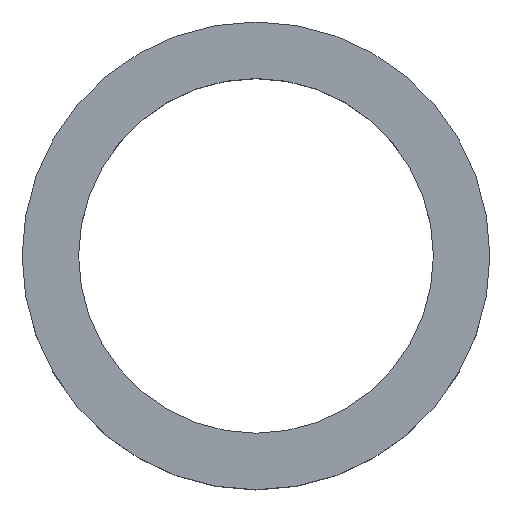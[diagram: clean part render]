
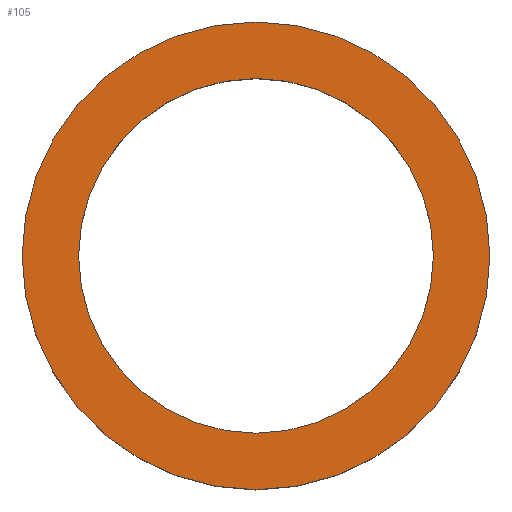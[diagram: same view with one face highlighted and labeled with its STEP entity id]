
A CAD part, top view. The second image highlights one B-rep face of the part: STEP entity #105.
In plain terms, the highlighted planar face has unit normal (0, 0, 1).
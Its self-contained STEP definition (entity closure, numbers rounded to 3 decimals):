
#21 = EDGE_CURVE('',#22,#22,#24,.T.);
#22 = VERTEX_POINT('',#23);
#23 = CARTESIAN_POINT('',(-311.,-265.913,-14.));
#24 = SURFACE_CURVE('',#25,(#30,#42),.PCURVE_S1.);
#25 = CIRCLE('',#26,24.);
#26 = AXIS2_PLACEMENT_3D('',#27,#28,#29);
#27 = CARTESIAN_POINT('',(-335.,-265.913,-14.));
#28 = DIRECTION('',(0.,0.,1.));
#29 = DIRECTION('',(1.,0.,-0.));
#30 = PCURVE('',#31,#36);
#31 = CYLINDRICAL_SURFACE('',#32,24.);
#32 = AXIS2_PLACEMENT_3D('',#33,#34,#35);
#33 = CARTESIAN_POINT('',(-335.,-265.913,-28.));
#34 = DIRECTION('',(0.,0.,1.));
#35 = DIRECTION('',(1.,0.,-0.));
#36 = DEFINITIONAL_REPRESENTATION('',(#37),#41);
#37 = LINE('',#38,#39);
#38 = CARTESIAN_POINT('',(0.,14.));
#39 = VECTOR('',#40,1.);
#40 = DIRECTION('',(1.,0.));
#41 = ( GEOMETRIC_REPRESENTATION_CONTEXT(2) 
PARAMETRIC_REPRESENTATION_CONTEXT() REPRESENTATION_CONTEXT('2D SPACE',''
  ) );
#42 = PCURVE('',#43,#48);
#43 = PLANE('',#44);
#44 = AXIS2_PLACEMENT_3D('',#45,#46,#47);
#45 = CARTESIAN_POINT('',(-335.,-265.913,-14.));
#46 = DIRECTION('',(0.,0.,1.));
#47 = DIRECTION('',(1.,0.,-0.));
#48 = DEFINITIONAL_REPRESENTATION('',(#49),#53);
#49 = CIRCLE('',#50,24.);
#50 = AXIS2_PLACEMENT_2D('',#51,#52);
#51 = CARTESIAN_POINT('',(0.,0.));
#52 = DIRECTION('',(1.,0.));
#53 = ( GEOMETRIC_REPRESENTATION_CONTEXT(2) 
PARAMETRIC_REPRESENTATION_CONTEXT() REPRESENTATION_CONTEXT('2D SPACE',''
  ) );
#105 = ADVANCED_FACE('',(#106,#109),#43,.T.);
#106 = FACE_BOUND('',#107,.T.);
#107 = EDGE_LOOP('',(#108));
#108 = ORIENTED_EDGE('',*,*,#21,.T.);
#109 = FACE_BOUND('',#110,.T.);
#110 = EDGE_LOOP('',(#111));
#111 = ORIENTED_EDGE('',*,*,#112,.F.);
#112 = EDGE_CURVE('',#113,#113,#115,.T.);
#113 = VERTEX_POINT('',#114);
#114 = CARTESIAN_POINT('',(-316.8,-265.913,-14.));
#115 = SURFACE_CURVE('',#116,(#121,#128),.PCURVE_S1.);
#116 = CIRCLE('',#117,18.2);
#117 = AXIS2_PLACEMENT_3D('',#118,#119,#120);
#118 = CARTESIAN_POINT('',(-335.,-265.913,-14.));
#119 = DIRECTION('',(0.,0.,1.));
#120 = DIRECTION('',(1.,0.,-0.));
#121 = PCURVE('',#43,#122);
#122 = DEFINITIONAL_REPRESENTATION('',(#123),#127);
#123 = CIRCLE('',#124,18.2);
#124 = AXIS2_PLACEMENT_2D('',#125,#126);
#125 = CARTESIAN_POINT('',(0.,0.));
#126 = DIRECTION('',(1.,0.));
#127 = ( GEOMETRIC_REPRESENTATION_CONTEXT(2) 
PARAMETRIC_REPRESENTATION_CONTEXT() REPRESENTATION_CONTEXT('2D SPACE',''
  ) );
#128 = PCURVE('',#129,#134);
#129 = CYLINDRICAL_SURFACE('',#130,18.2);
#130 = AXIS2_PLACEMENT_3D('',#131,#132,#133);
#131 = CARTESIAN_POINT('',(-335.,-265.913,-28.));
#132 = DIRECTION('',(0.,0.,1.));
#133 = DIRECTION('',(1.,0.,-0.));
#134 = DEFINITIONAL_REPRESENTATION('',(#135),#139);
#135 = LINE('',#136,#137);
#136 = CARTESIAN_POINT('',(0.,14.));
#137 = VECTOR('',#138,1.);
#138 = DIRECTION('',(1.,0.));
#139 = ( GEOMETRIC_REPRESENTATION_CONTEXT(2) 
PARAMETRIC_REPRESENTATION_CONTEXT() REPRESENTATION_CONTEXT('2D SPACE',''
  ) );
